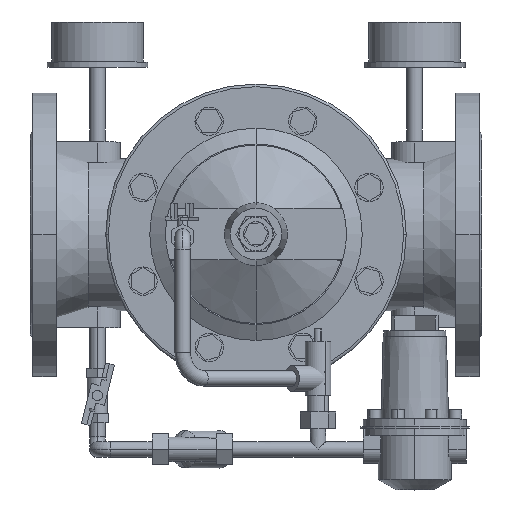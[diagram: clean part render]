
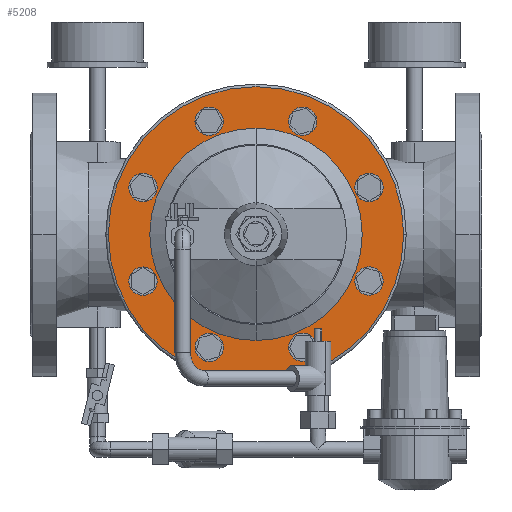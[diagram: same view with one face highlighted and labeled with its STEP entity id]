
A CAD part, top view. The second image highlights one B-rep face of the part: STEP entity #5208.
In plain terms, the highlighted planar face has unit normal (0, 0, 1).
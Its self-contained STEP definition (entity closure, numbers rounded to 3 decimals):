
#5208=ADVANCED_FACE('',(#9596,#9597),#9598,.T.);
#9596=FACE_BOUND('',#14517,.T.);
#9597=FACE_OUTER_BOUND('',#14518,.T.);
#9598=PLANE('',#14519);
#14517=EDGE_LOOP('',(#23615,#23616));
#14518=EDGE_LOOP('',(#23617,#23618,#23619));
#14519=AXIS2_PLACEMENT_3D('',#23620,#23621,#23622);
#23615=ORIENTED_EDGE('',*,*,#29155,.F.);
#23616=ORIENTED_EDGE('',*,*,#29353,.F.);
#23617=ORIENTED_EDGE('',*,*,#29261,.T.);
#23618=ORIENTED_EDGE('',*,*,#26491,.T.);
#23619=ORIENTED_EDGE('',*,*,#29262,.T.);
#23620=CARTESIAN_POINT('',(175.0,98.615,106.0));
#23621=DIRECTION('',(0.,0.,1.0));
#23622=DIRECTION('',(0.,1.0,0.));
#26491=EDGE_CURVE('',#30911,#30917,#30919,.T.);
#29155=EDGE_CURVE('',#34985,#34987,#34988,.T.);
#29261=EDGE_CURVE('',#35119,#30911,#35120,.T.);
#29262=EDGE_CURVE('',#30917,#35119,#35121,.T.);
#29353=EDGE_CURVE('',#34987,#34985,#35238,.T.);
#30911=VERTEX_POINT('',#37208);
#30917=VERTEX_POINT('',#37214);
#30919=CIRCLE('',#37216,114.5);
#34985=VERTEX_POINT('',#51308);
#34987=VERTEX_POINT('',#51311);
#34988=CIRCLE('',#51312,82.35);
#35119=VERTEX_POINT('',#51483);
#35120=CIRCLE('',#51484,114.5);
#35121=CIRCLE('',#51485,114.5);
#35238=CIRCLE('',#51725,82.35);
#37208=CARTESIAN_POINT('',(60.5,0.19,106.0));
#37214=CARTESIAN_POINT('',(289.5,0.19,106.0));
#37216=AXIS2_PLACEMENT_3D('',#53847,#53848,#53849);
#51308=CARTESIAN_POINT('',(175.0,82.54,106.0));
#51311=CARTESIAN_POINT('',(175.0,-82.16,106.0));
#51312=AXIS2_PLACEMENT_3D('',#56849,#56850,#56851);
#51483=CARTESIAN_POINT('',(175.0,114.69,106.0));
#51484=AXIS2_PLACEMENT_3D('',#56952,#56953,#56954);
#51485=AXIS2_PLACEMENT_3D('',#56955,#56956,#56957);
#51725=AXIS2_PLACEMENT_3D('',#57045,#57046,#57047);
#53847=CARTESIAN_POINT('',(175.0,0.19,106.0));
#53848=DIRECTION('',(0.,0.,1.0));
#53849=DIRECTION('',(0.,1.0,0.));
#56849=CARTESIAN_POINT('',(175.0,0.19,106.0));
#56850=DIRECTION('',(0.,0.,1.0));
#56851=DIRECTION('',(0.,1.0,0.));
#56952=CARTESIAN_POINT('',(175.0,0.19,106.0));
#56953=DIRECTION('',(0.,0.,1.0));
#56954=DIRECTION('',(0.,1.0,0.));
#56955=CARTESIAN_POINT('',(175.0,0.19,106.0));
#56956=DIRECTION('',(0.,0.,1.0));
#56957=DIRECTION('',(0.,1.0,0.));
#57045=CARTESIAN_POINT('',(175.0,0.19,106.0));
#57046=DIRECTION('',(0.,0.,1.0));
#57047=DIRECTION('',(0.,1.0,0.));
